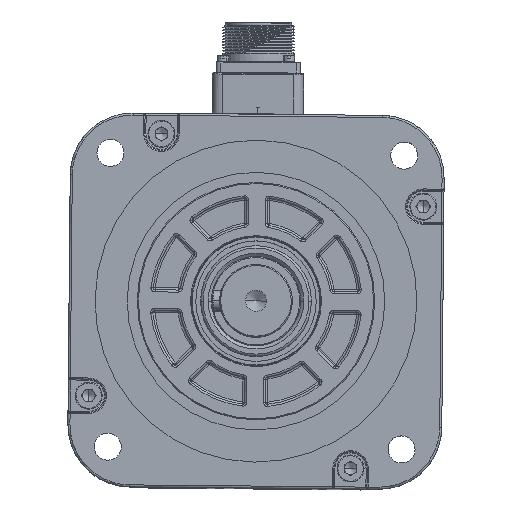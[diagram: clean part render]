
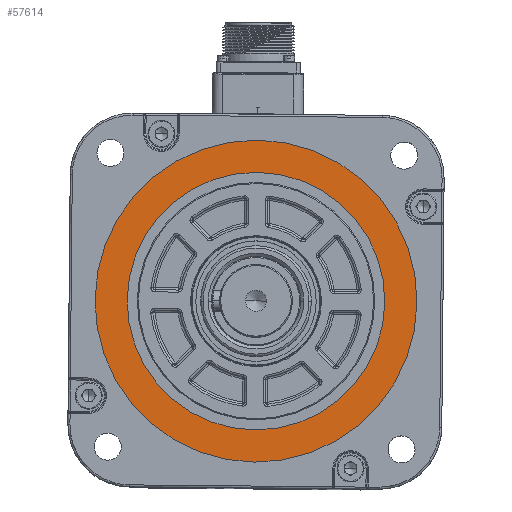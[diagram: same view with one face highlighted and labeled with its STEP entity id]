
A CAD part, top view. The second image highlights one B-rep face of the part: STEP entity #57614.
In plain terms, the highlighted planar face has unit normal (0, 0, 1) as drawn and (0, 0, -1) by its records, which use the part's own axes.
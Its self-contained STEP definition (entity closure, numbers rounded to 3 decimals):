
#6766 = CIRCLE ( 'NONE', #103160, 77.5 ) ;
#14817 = CIRCLE ( 'NONE', #34701, 62. ) ;
#20529 = ORIENTED_EDGE ( 'NONE', *, *, #113918, .T. ) ;
#26887 = CIRCLE ( 'NONE', #94798, 77.5 ) ;
#31227 = ORIENTED_EDGE ( 'NONE', *, *, #89909, .T. ) ;
#34701 = AXIS2_PLACEMENT_3D ( 'NONE', #72504, #72044, #83848 ) ;
#39815 = DIRECTION ( 'NONE',  ( -1., 0., 0. ) ) ;
#40581 = CARTESIAN_POINT ( 'NONE',  ( 0., 0., 1.5 ) ) ;
#41836 = ORIENTED_EDGE ( 'NONE', *, *, #60916, .T. ) ;
#47034 = ORIENTED_EDGE ( 'NONE', *, *, #115865, .T. ) ;
#50692 = DIRECTION ( 'NONE',  ( 0., 0., 1. ) ) ;
#55035 = FACE_OUTER_BOUND ( 'NONE', #82720, .T. ) ;
#55281 = VERTEX_POINT ( 'NONE', #107384 ) ;
#56888 = CIRCLE ( 'NONE', #76356, 62. ) ;
#57614 = ADVANCED_FACE ( 'NONE', ( #90647, #55035 ), #72897, .T. ) ;
#60916 = EDGE_CURVE ( 'NONE', #69957, #140443, #14817, .T. ) ;
#69957 = VERTEX_POINT ( 'NONE', #95315 ) ;
#72044 = DIRECTION ( 'NONE',  ( 0., 0., 1. ) ) ;
#72504 = CARTESIAN_POINT ( 'NONE',  ( 0., 0., 1.5 ) ) ;
#72897 = PLANE ( 'NONE',  #105076 ) ;
#73298 = CARTESIAN_POINT ( 'NONE',  ( -77.5, 0., 1.5 ) ) ;
#76356 = AXIS2_PLACEMENT_3D ( 'NONE', #115655, #50692, #39815 ) ;
#78103 = EDGE_LOOP ( 'NONE', ( #20529, #41836 ) ) ;
#82720 = EDGE_LOOP ( 'NONE', ( #31227, #47034 ) ) ;
#83848 = DIRECTION ( 'NONE',  ( -1., 0., 0. ) ) ;
#89909 = EDGE_CURVE ( 'NONE', #136723, #55281, #6766, .T. ) ;
#90535 = CARTESIAN_POINT ( 'NONE',  ( 0., 0., 1.5 ) ) ;
#90647 = FACE_BOUND ( 'NONE', #78103, .T. ) ;
#93040 = CARTESIAN_POINT ( 'NONE',  ( -62., 0., 1.5 ) ) ;
#93860 = CARTESIAN_POINT ( 'NONE',  ( 0., 0., 1.5 ) ) ;
#94798 = AXIS2_PLACEMENT_3D ( 'NONE', #93860, #115201, #136944 ) ;
#95315 = CARTESIAN_POINT ( 'NONE',  ( 62., 0., 1.5 ) ) ;
#103160 = AXIS2_PLACEMENT_3D ( 'NONE', #90535, #134122, #123201 ) ;
#105076 = AXIS2_PLACEMENT_3D ( 'NONE', #40581, #138622, #116437 ) ;
#107384 = CARTESIAN_POINT ( 'NONE',  ( 77.5, 0., 1.5 ) ) ;
#113918 = EDGE_CURVE ( 'NONE', #140443, #69957, #56888, .T. ) ;
#115201 = DIRECTION ( 'NONE',  ( 0., 0., -1. ) ) ;
#115655 = CARTESIAN_POINT ( 'NONE',  ( 0., 0., 1.5 ) ) ;
#115865 = EDGE_CURVE ( 'NONE', #55281, #136723, #26887, .T. ) ;
#116437 = DIRECTION ( 'NONE',  ( -1., 0., 0. ) ) ;
#123201 = DIRECTION ( 'NONE',  ( -1., 0., 0. ) ) ;
#134122 = DIRECTION ( 'NONE',  ( 0., 0., -1. ) ) ;
#136723 = VERTEX_POINT ( 'NONE', #73298 ) ;
#136944 = DIRECTION ( 'NONE',  ( -1., 0., 0. ) ) ;
#138622 = DIRECTION ( 'NONE',  ( 0., 0., -1. ) ) ;
#140443 = VERTEX_POINT ( 'NONE', #93040 ) ;
